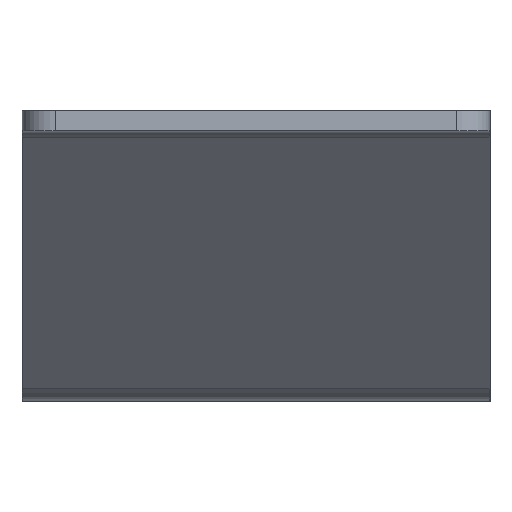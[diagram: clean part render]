
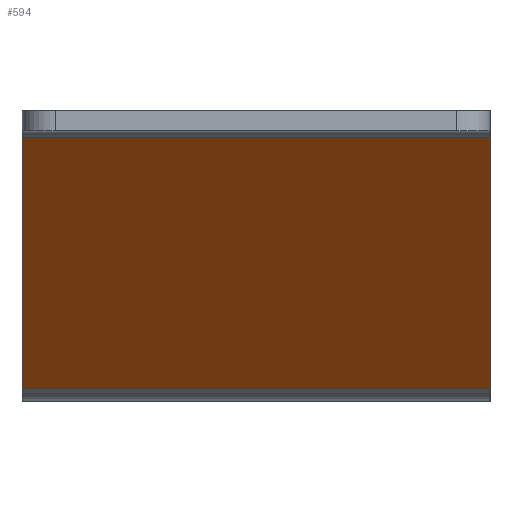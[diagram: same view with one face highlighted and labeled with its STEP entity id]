
A CAD part, front view. The second image highlights one B-rep face of the part: STEP entity #594.
In plain terms, the highlighted planar face has unit normal (0, -0.731, -0.682).
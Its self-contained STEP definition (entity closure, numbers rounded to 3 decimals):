
#36=PLANE('',#679);
#66=FACE_OUTER_BOUND('',#104,.T.);
#104=EDGE_LOOP('',(#545,#546,#547,#548));
#108=LINE('',#876,#160);
#129=LINE('',#952,#181);
#144=LINE('',#995,#196);
#156=LINE('',#1027,#208);
#160=VECTOR('',#697,10.);
#181=VECTOR('',#770,10.);
#196=VECTOR('',#815,10.);
#208=VECTOR('',#855,10.);
#245=VERTEX_POINT('',#869);
#248=VERTEX_POINT('',#874);
#277=VERTEX_POINT('',#951);
#289=VERTEX_POINT('',#991);
#304=EDGE_CURVE('',#245,#248,#108,.T.);
#341=EDGE_CURVE('',#245,#277,#129,.T.);
#364=EDGE_CURVE('',#289,#277,#144,.T.);
#380=EDGE_CURVE('',#289,#248,#156,.T.);
#545=ORIENTED_EDGE('',*,*,#304,.T.);
#546=ORIENTED_EDGE('',*,*,#380,.F.);
#547=ORIENTED_EDGE('',*,*,#364,.T.);
#548=ORIENTED_EDGE('',*,*,#341,.F.);
#594=ADVANCED_FACE('',(#66),#36,.F.);
#679=AXIS2_PLACEMENT_3D('',#1028,#856,#857);
#697=DIRECTION('',(-1.,0.,0.));
#770=DIRECTION('',(0.,0.682,-0.731));
#815=DIRECTION('',(1.,0.,0.));
#855=DIRECTION('',(0.,-0.682,0.731));
#856=DIRECTION('center_axis',(0.,0.731,0.682));
#857=DIRECTION('ref_axis',(1.,0.,0.));
#869=CARTESIAN_POINT('',(70.,35.422,-0.954));
#874=CARTESIAN_POINT('',(0.,35.422,-0.954));
#876=CARTESIAN_POINT('',(17.5,35.422,-0.954));
#951=CARTESIAN_POINT('',(70.,70.515,-38.587));
#952=CARTESIAN_POINT('',(70.,10.344,25.939));
#991=CARTESIAN_POINT('',(0.,70.515,-38.587));
#995=CARTESIAN_POINT('',(17.5,70.515,-38.587));
#1027=CARTESIAN_POINT('',(0.,139.242,-112.287));
#1028=CARTESIAN_POINT('Origin',(35.,74.793,-43.174));
